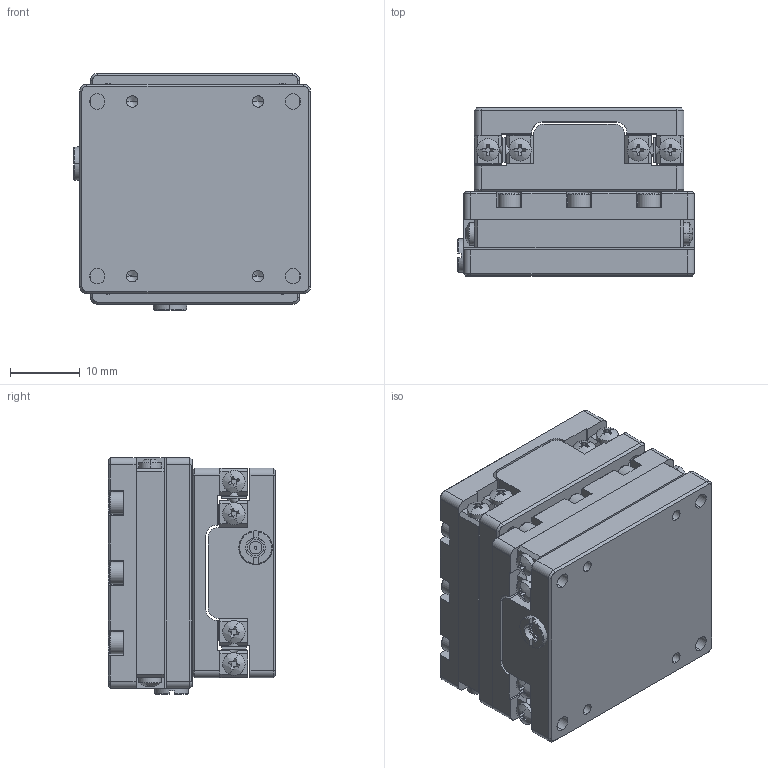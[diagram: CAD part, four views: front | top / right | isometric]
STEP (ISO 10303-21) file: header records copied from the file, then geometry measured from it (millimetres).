
FILE_DESCRIPTION (( 'STEP AP214' ), '1' );
FILE_NAME ('N56.XY10K-B1开环二维直线压电马达3D图（25.08.01）.STEP', '2025-08-01T05:24:21', ( '微软用户' ), ( '微软中国' ), 'SwSTEP 2.0', 'SolidWorks 2016', '' );
FILE_SCHEMA (( 'AUTOMOTIVE_DESIGN' ));
Length unit declared in the file: millimetre
Products named in the file (1): N56.XY10K-B1开环二维直线压电马达3D图（25.08.01）
Bounding box: 33.9 x 24 x 33.9 mm (x, y, z)
Volume: 16667.7 mm3; surface area: 21033.1 mm2
Topology: 86 solids, 86 shells, 2040 faces, 5114 edges, 3288 vertices
Faces by surface type: plane 1066, cylinder 728, cone 166, bspline 80
Entity records: 85177 total; most frequent: CARTESIAN_POINT 12973, DIRECTION 10284, ORIENTED_EDGE 9988, EDGE_CURVE 4994, AXIS2_PLACEMENT_3D 3759, VERTEX_POINT 3288, LINE 2766, VECTOR 2766
